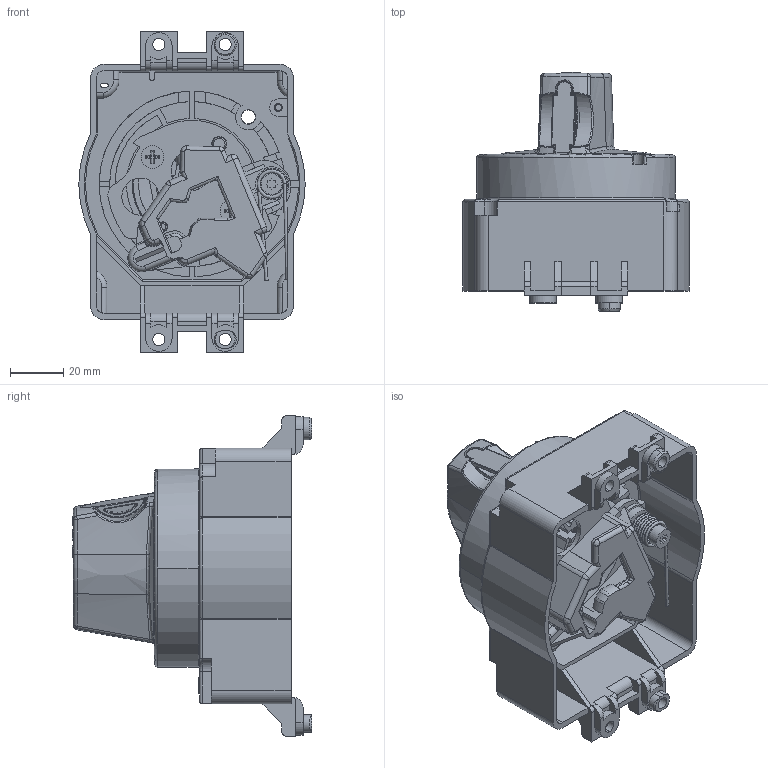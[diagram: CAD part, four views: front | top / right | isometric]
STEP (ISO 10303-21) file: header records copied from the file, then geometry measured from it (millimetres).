
FILE_DESCRIPTION((''),'2;1');
FILE_NAME('4818793901_ASM','2018-08-15T',('sesa105148'),('Schneider-Electric'),'PRO/ENGINEER BY PARAMETRIC TECHNOLOGY CORPORATION, 2015440','PRO/ENGINEER BY PARAMETRIC TECHNOLOGY CORPORATION, 2015440','');
FILE_SCHEMA(('CONFIG_CONTROL_DESIGN'));
Length unit declared in the file: millimetre
Products named in the file (10): 48187028-01; 4818702601; 4818709901; 4818748301; 4818731801; 4818748001; 4818748401; 4818722001; 4818748501; 4818793901_ASM
Assembly tree (10 placements, depth 2):
  4818793901_ASM
    48187028-01
    4818702601
    4818709901
    4818748301
    4818731801
    4818748001
    4818748401
    4818722001
    4818748501  x2
Bounding box: 85.2 x 90.05 x 121 mm (x, y, z)
Volume: 113213.3 mm3; surface area: 108069 mm2
Topology: 10 solids, 12 shells, 1646 faces, 4449 edges, 2874 vertices
Faces by surface type: plane 943, cylinder 445, bspline 87, torus 75, cone 54, sphere 28, extrusion 14
Entity records: 57269 total; most frequent: CARTESIAN_POINT 16365, ORIENTED_EDGE 8774, DIRECTION 8179, EDGE_CURVE 4387, VECTOR 2917, LINE 2903, VERTEX_POINT 2834, AXIS2_PLACEMENT_3D 2631
